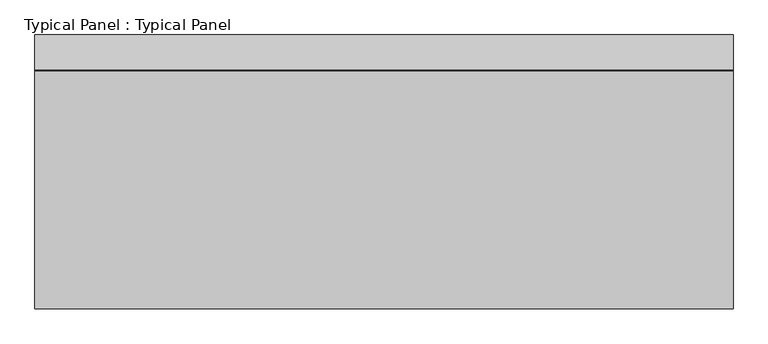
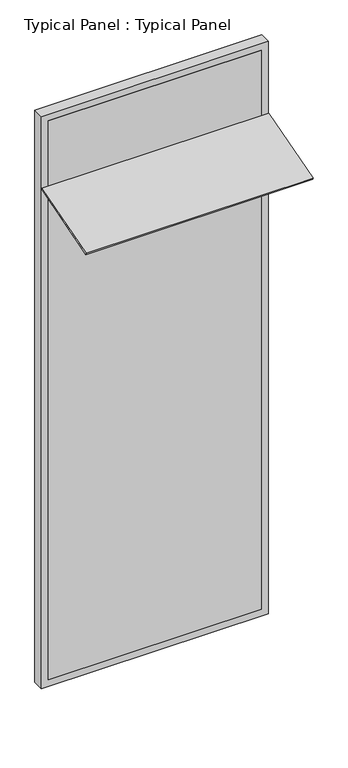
"""IFC4 building model written with IfcOpenShell, lengths in millimetres: plate geometry, Typical Panel : Typical Panel."""

import ifcopenshell
import ifcopenshell.guid

model = None  # the IFC model being written
_history = None  # IfcOwnerHistory: only IFC2X3 demands one
_inside = {}  # id of a spatial element -> (the spatial element, [elements in it])
_under = {}  # id of a project, library or spatial element -> (it, [spatial elements below it])
_declared = {}  # id of a project -> (the project, [libraries it declares])
_typed = {}  # id of a type object -> (the type object, [elements of that type])
_made_of = {}  # id of a material, layer set ... -> (it, [elements and type objects made of it])


def new_model(schema):
    """Start an empty IFC model of exactly this schema.

    Asked for "IFC4X3", IfcOpenShell would pick the latest addendum, in which some entities
    have other attributes; the version numbers below select the first issue.
    IFC2X3 requires an IfcOwnerHistory on every rooted entity: one is made here for all.
    """
    global model, _history
    if schema == "IFC4X3":
        model = ifcopenshell.file(schema_version=(4, 3, 0, 0))
    else:
        model = ifcopenshell.file(schema=schema)
    _inside.clear()
    _under.clear()
    _declared.clear()
    _typed.clear()
    _made_of.clear()
    _history = None
    if model.schema == "IFC2X3":
        org = make("IfcOrganization", Name="unknown")
        user = make(
            "IfcPersonAndOrganization",
            ThePerson=make("IfcPerson", FamilyName="unknown"),
            TheOrganization=org,
        )
        app = make(
            "IfcApplication",
            ApplicationDeveloper=org,
            Version="unknown",
            ApplicationFullName="unknown",
            ApplicationIdentifier="unknown",
        )
        _history = make(
            "IfcOwnerHistory",
            OwningUser=user,
            OwningApplication=app,
            ChangeAction="ADDED",
            CreationDate=0,
        )
    return model


def make(cls, **values):
    """One entity of the class cls with the attributes given. An attribute that is None is left unset."""
    return model.create_entity(
        cls, **{name: value for name, value in values.items() if value is not None}
    )


def rooted(cls, **values):
    """An entity with a GlobalId (a new one), such as an element, a storey or a relation."""
    return make(cls, GlobalId=ifcopenshell.guid.new(), OwnerHistory=_history, **values)


def si_unit(unit_type, name, prefix=None):
    """IfcSIUnit, for example si_unit("LENGTHUNIT", "METRE", prefix="MILLI")."""
    return make("IfcSIUnit", UnitType=unit_type, Prefix=prefix, Name=name)


def assignment(units):
    """IfcUnitAssignment: the units of a project."""
    return None if units is None else make("IfcUnitAssignment", Units=units)


def point(xyz):
    """IfcCartesianPoint."""
    return None if xyz is None else make("IfcCartesianPoint", Coordinates=xyz)


def direction(xyz):
    """IfcDirection."""
    return None if xyz is None else make("IfcDirection", DirectionRatios=xyz)


def frame(location, z_axis=None, x_axis=None):
    """IfcAxis2Placement3D, a coordinate frame: its origin and axes. An axis left out is left unset."""
    return make(
        "IfcAxis2Placement3D",
        Location=point(location),
        Axis=direction(z_axis),
        RefDirection=direction(x_axis),
    )


def origin():
    """The frame at (0, 0, 0) with its axes left unset."""
    return frame((0.0, 0.0, 0.0))


def place(relative_to, where):
    """IfcLocalPlacement: puts the frame where relative to a parent placement (None: the world)."""
    return make(
        "IfcLocalPlacement", PlacementRelTo=relative_to, RelativePlacement=where
    )


def context(
    kind, dimensions, precision=None, world=None, true_north=None, identifier=None
):
    """IfcGeometricRepresentationContext, for example the 3D "Model" context."""
    return make(
        "IfcGeometricRepresentationContext",
        ContextIdentifier=identifier,
        ContextType=kind,
        CoordinateSpaceDimension=dimensions,
        Precision=precision,
        WorldCoordinateSystem=world,
        TrueNorth=true_north,
    )


def project(units=None, contexts=None):
    """IfcProject with its units and contexts."""
    return rooted(
        "IfcProject",
        Name="project",
        RepresentationContexts=contexts,
        UnitsInContext=assignment(units),
    )


def spatial(cls, under=None, at=None, **own):
    """A site, building, storey or space (cls), placed at a placement, below another one or the project."""
    s = rooted(cls, ObjectPlacement=at, **own)
    if under is not None:
        _under.setdefault(under.id(), (under, []))[1].append(s)
    return s


def polyline(points):
    """IfcPolyline through the points."""
    return make("IfcPolyline", Points=[point(p) for p in points])


def outline(outer, holes=None, kind="AREA"):
    """IfcArbitraryClosedProfileDef: a profile drawn as a closed curve; with holes, ...WithVoids."""
    if holes is None:
        return make("IfcArbitraryClosedProfileDef", ProfileType=kind, OuterCurve=outer)
    return make(
        "IfcArbitraryProfileDefWithVoids",
        ProfileType=kind,
        OuterCurve=outer,
        InnerCurves=holes,
    )


def extrude(swept, where, along, depth):
    """IfcExtrudedAreaSolid: the profile swept, set in the frame where, extruded along a direction by depth."""
    return make(
        "IfcExtrudedAreaSolid",
        SweptArea=swept,
        Position=where,
        ExtrudedDirection=direction(along),
        Depth=depth,
    )


def shape(context_of_items, identifier, shape_type, items):
    """IfcShapeRepresentation: the items that make up one representation, for example the "Body"."""
    return make(
        "IfcShapeRepresentation",
        ContextOfItems=context_of_items,
        RepresentationIdentifier=identifier,
        RepresentationType=shape_type,
        Items=items,
    )


def source(mapping_origin, context_of_items, identifier, shape_type, items):
    """IfcRepresentationMap: a shape defined once, which mapped items show again and again."""
    return make(
        "IfcRepresentationMap",
        MappingOrigin=mapping_origin,
        MappedRepresentation=shape(context_of_items, identifier, shape_type, items),
    )


def transform(
    local_origin,
    x_axis=None,
    y_axis=None,
    z_axis=None,
    scale=None,
    scale2=None,
    scale3=None,
    uniform=True,
):
    """IfcCartesianTransformationOperator3D, or its non-uniform kind. x_axis, y_axis, z_axis: its Axis1, 2, 3."""
    if uniform:
        return make(
            "IfcCartesianTransformationOperator3D",
            Axis1=direction(x_axis),
            Axis2=direction(y_axis),
            LocalOrigin=point(local_origin),
            Scale=scale,
            Axis3=direction(z_axis),
        )
    return make(
        "IfcCartesianTransformationOperator3DnonUniform",
        Axis1=direction(x_axis),
        Axis2=direction(y_axis),
        LocalOrigin=point(local_origin),
        Scale=scale,
        Axis3=direction(z_axis),
        Scale2=scale2,
        Scale3=scale3,
    )


def mapped(mapping_source, mapping_target):
    """IfcMappedItem: shows the shape of a source again, moved by a transform."""
    return make(
        "IfcMappedItem", MappingSource=mapping_source, MappingTarget=mapping_target
    )


def made_of(thing, what):
    """Note that an element or type object is made of a material, layer set ...; save() writes the relation."""
    if what is not None:
        _made_of.setdefault(what.id(), (what, []))[1].append(thing)
    return thing


def element(
    cls,
    number,
    at=None,
    inside=None,
    cuts=None,
    type_object=None,
    material=None,
    context=None,
    identifier="Body",
    shape_type=None,
    held_by="IfcProductDefinitionShape",
    body=None,
    shapes=None,
    **own,
):
    """One element of the class cls, such as IfcWall. Its Tag is "e" and its number.

    at: its placement. inside: the storey or other place that contains it. cuts: it is an
    opening in that element (IfcRelVoidsElement). A single representation is given by context,
    identifier, shape_type and body (its items); several are given by shapes. held_by: the class
    of the entity that holds the representations. save() writes the other relations.
    """
    e = rooted(cls, Tag="e%d" % number, ObjectPlacement=at, **own)
    if body is not None:
        shapes = [shape(context, identifier, shape_type, body)]
    if shapes is not None:
        e.Representation = make(held_by, Representations=shapes)
    if inside is not None:
        _inside.setdefault(inside.id(), (inside, []))[1].append(e)
    if cuts is not None:
        rooted(
            "IfcRelVoidsElement", RelatingBuildingElement=cuts, RelatedOpeningElement=e
        )
    if type_object is not None:
        _typed.setdefault(type_object.id(), (type_object, []))[1].append(e)
    return made_of(e, material)


def aggregate(whole, parts):
    """IfcRelAggregates: a whole, such as a stair, and the parts it consists of."""
    return rooted("IfcRelAggregates", RelatingObject=whole, RelatedObjects=parts)


def save(model, path):
    """Write the relations noted so far, then the file.

    IfcRelAggregates (storeys below a building ...), IfcRelContainedInSpatialStructure (elements
    in a storey), IfcRelDefinesByType, IfcRelAssociatesMaterial and IfcRelDeclares: one each for
    every whole, place, type object, material and project.
    """
    for whole, parts in _under.values():
        aggregate(whole, parts)
    for where, things in _inside.values():
        rooted(
            "IfcRelContainedInSpatialStructure",
            RelatedElements=things,
            RelatingStructure=where,
        )
    for kind, things in _typed.values():
        rooted("IfcRelDefinesByType", RelatedObjects=things, RelatingType=kind)
    for what, things in _made_of.values():
        rooted("IfcRelAssociatesMaterial", RelatedObjects=things, RelatingMaterial=what)
    for by, libraries in _declared.values():
        rooted("IfcRelDeclares", RelatingContext=by, RelatedDefinitions=libraries)
    model.write(path)


def typical_panel_typical_panel_d72680d6(model_context):
    return source(origin(), model_context, "Body", "SweptSolid", [
        extrude(outline(polyline([(0.0, -530.0), (0.0, 0.0), (1500.0, 0.0), (1500.0, -530.0), (0.0, -530.0)])), frame((750.0, -511.7123253, 3344.2995845), z_axis=(0.0, -0.2756373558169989, 0.961261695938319), x_axis=(-1.0, 0.0, 0.0)), (0.0, 0.0, 1.0), 10.0),
        extrude(outline(polyline([(0.0, -750.0), (0.0, 750.0), (4000.0, 750.0), (4000.0, -750.0), (0.0, -750.0)]), holes=[polyline([(45.0, 705.0), (45.0, -705.0), (3955.0, -705.0), (3955.0, 705.0), (45.0, 705.0)])]), frame((0.0, -1.5797986, 0.0), z_axis=(0.0, 1.0, 0.0), x_axis=(0.0, 0.0, 1.0)), (0.0, 0.0, 1.0), 75.0),
        extrude(outline(polyline([(705.0, -1.5797986), (-705.0, -1.5797986), (-705.0, 13.4202014), (705.0, 13.4202014), (705.0, -1.5797986)])), frame((0.0, 0.0, 45.0), z_axis=(0.0, 0.0, 1.0), x_axis=(1.0, 0.0, 0.0)), (0.0, 0.0, 1.0), 3910.0),
    ])


if __name__ == "__main__":
    model = new_model("IFC4")
    model_context = context("Model", 3, world=origin())
    ifc_project = project(units=[si_unit("LENGTHUNIT", "METRE", prefix="MILLI")], contexts=[model_context])
    site = spatial("IfcSite", under=ifc_project)
    building = spatial("IfcBuilding", under=site)
    placement = place(None, origin())
    typical_panel_typical_panel_shape = typical_panel_typical_panel_d72680d6(model_context)
    element("IfcPlate", 1, ObjectType="Typical Panel : Typical Panel", at=placement, inside=building, context=model_context, shape_type="MappedRepresentation", body=[
        mapped(typical_panel_typical_panel_shape, transform((0.0, 0.0, 0.0), x_axis=(1.0, 0.0, 0.0), y_axis=(0.0, 1.0, 0.0), z_axis=(0.0, 0.0, 1.0))),
    ])
    save(model, "model.ifc")
